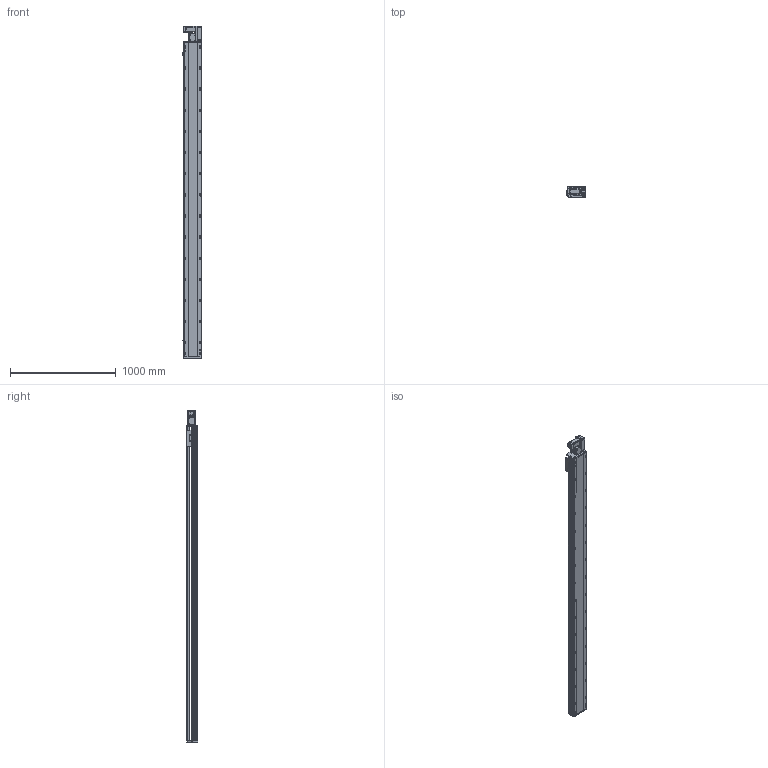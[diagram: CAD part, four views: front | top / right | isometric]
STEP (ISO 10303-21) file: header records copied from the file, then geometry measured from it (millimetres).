
FILE_DESCRIPTION (( 'STEP AP214' ), '1' );
FILE_NAME ('RTB17S-XX-2750-R-M40-C4.STEP', '2025-12-11T07:53:08', ( '' ), ( '' ), 'SwSTEP 2.0', 'SolidWorks 2018', '' );
FILE_SCHEMA (( 'AUTOMOTIVE_DESIGN' ));
Length unit declared in the file: millimetre
Products named in the file (14): RTB17S-L-014-T20--々湍釱^RTB17S-R-々湍釱蚾饜-400W_RTB17S-XX-XX-R-M40-C4; RTB14-L-018P^RTB17S-R-々湍釱蚾饜-400W_RTB17S-XX-XX-R-M40-C4; RTH13-BL-012覜茼え俋离^RTB17S-XX-XX-R-M40-C4; RTB17S-L-007奻裔^RTB17S-XX-XX-R-M40-C4; RTB17-R-011菁釱^RTB17S-XX-XX-R-M40-C4; RTB17S-XX-2750-R-M40-C4; RTB14-L-005P--轴承塑胶压盖^RTB17S-R-皮带座装配-400W_RTB17S-XX-XX-R-M40-C4; RTB17S-R-々湍釱蚾饜-400W^RTB17S-XX-XX-R-M40-C4; RTB17S-L-004佪裝蹟譫蟀諉釱^RTB17S-XX-XX-R-M40-C4; 400W侜督萇儂^RTB17S-XX-XX-R-M40-C4; RTB14-L-017P^RTB17S-R-々湍釱蚾饜-400W_RTB17S-XX-XX-R-M40-C4; OMRON EE-SX672 传感器^RTB17S-XX-XX-R-M40-C4; RTB14-L-008-M20--萇儂啣^RTB17S-R-々湍釱蚾饜-400W_RTB17S-XX-XX-R-M40-C4; RTB17S-L-001耜醱啣^RTB17S-XX-XX-R-M40-C4
Assembly tree (16 placements, depth 3):
  RTB17S-XX-2750-R-M40-C4
    RTB17-R-011菁釱^RTB17S-XX-XX-R-M40-C4
    RTB17S-L-007奻裔^RTB17S-XX-XX-R-M40-C4
    OMRON EE-SX672 传感器^RTB17S-XX-XX-R-M40-C4  x3
    RTB17S-L-001耜醱啣^RTB17S-XX-XX-R-M40-C4
    400W侜督萇儂^RTB17S-XX-XX-R-M40-C4
    RTB17S-L-004佪裝蹟譫蟀諉釱^RTB17S-XX-XX-R-M40-C4
    RTH13-BL-012覜茼え俋离^RTB17S-XX-XX-R-M40-C4
    RTB17S-R-々湍釱蚾饜-400W^RTB17S-XX-XX-R-M40-C4
      RTB17S-L-014-T20--々湍釱^RTB17S-R-々湍釱蚾饜-400W_RTB17S-XX-XX-R-M40-C4
      RTB14-L-005P--轴承塑胶压盖^RTB17S-R-皮带座装配-400W_RTB17S-XX-XX-R-M40-C4
      RTB14-L-008-M20--萇儂啣^RTB17S-R-々湍釱蚾饜-400W_RTB17S-XX-XX-R-M40-C4
      RTB14-L-017P^RTB17S-R-々湍釱蚾饜-400W_RTB17S-XX-XX-R-M40-C4  x2
      RTB14-L-018P^RTB17S-R-々湍釱蚾饜-400W_RTB17S-XX-XX-R-M40-C4
Bounding box: 183.5 x 108 x 3141 mm (x, y, z)
Volume: 26235082.5 mm3; surface area: 3010759.5 mm2
Topology: 15 solids, 15 shells, 2349 faces, 6573 edges, 4293 vertices
Faces by surface type: plane 1086, cylinder 815, bspline 301, cone 139, torus 8
Entity records: 69545 total; most frequent: CARTESIAN_POINT 19778, ORIENTED_EDGE 9990, DIRECTION 9206, EDGE_CURVE 4995, VERTEX_POINT 3281, AXIS2_PLACEMENT_3D 3211, VECTOR 2784, LINE 2784
